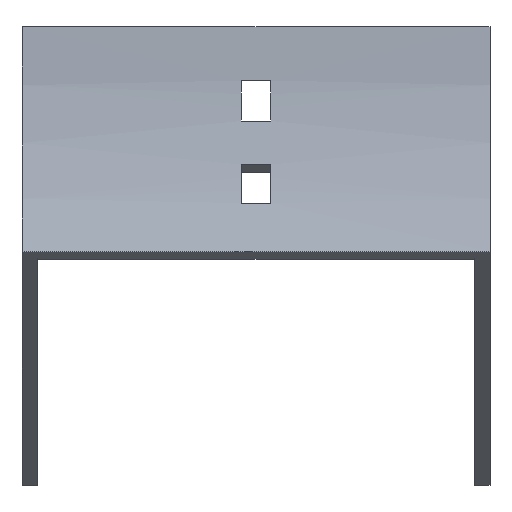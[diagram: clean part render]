
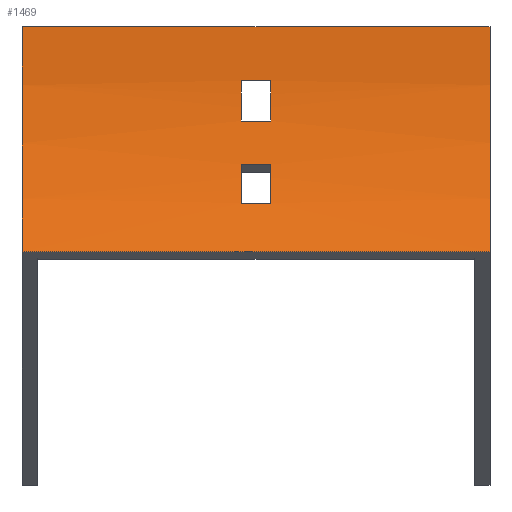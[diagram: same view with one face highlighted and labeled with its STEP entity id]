
A CAD part, front view. The second image highlights one B-rep face of the part: STEP entity #1469.
In plain terms, the highlighted cylindrical face has radius 100 mm (diameter 200 mm), a partial arc.
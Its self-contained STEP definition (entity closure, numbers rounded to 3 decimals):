
#9 = CARTESIAN_POINT ( 'NONE',  ( 52., -0.723, -12. ) ) ;
#27 = VERTEX_POINT ( 'NONE', #1360 ) ;
#112 = DIRECTION ( 'NONE',  ( 0., 0., 1. ) ) ;
#115 = AXIS2_PLACEMENT_3D ( 'NONE', #827, #287, #705 ) ;
#116 = AXIS2_PLACEMENT_3D ( 'NONE', #645, #907, #374 ) ;
#123 = VERTEX_POINT ( 'NONE', #136 ) ;
#136 = CARTESIAN_POINT ( 'NONE',  ( -3.25, -0.723, -12. ) ) ;
#166 = DIRECTION ( 'NONE',  ( -1., 0., 0. ) ) ;
#172 = EDGE_CURVE ( 'NONE', #27, #563, #935, .T. ) ;
#213 = CARTESIAN_POINT ( 'NONE',  ( 52., -100., 0. ) ) ;
#219 = ORIENTED_EDGE ( 'NONE', *, *, #486, .T. ) ;
#221 = CARTESIAN_POINT ( 'NONE',  ( -52., 0., 0. ) ) ;
#229 = CIRCLE ( 'NONE', #301, 100. ) ;
#255 = FACE_BOUND ( 'NONE', #305, .T. ) ;
#279 = VERTEX_POINT ( 'NONE', #1086 ) ;
#286 = CARTESIAN_POINT ( 'NONE',  ( 52., 0., 0. ) ) ;
#287 = DIRECTION ( 'NONE',  ( 1., 0., 0. ) ) ;
#300 = AXIS2_PLACEMENT_3D ( 'NONE', #343, #707, #1106 ) ;
#301 = AXIS2_PLACEMENT_3D ( 'NONE', #1573, #166, #675 ) ;
#305 = EDGE_LOOP ( 'NONE', ( #373, #1543, #219, #424 ) ) ;
#311 = DIRECTION ( 'NONE',  ( -1., 0., 0. ) ) ;
#343 = CARTESIAN_POINT ( 'NONE',  ( -3.25, -100., 0. ) ) ;
#344 = CARTESIAN_POINT ( 'NONE',  ( 52., 0., 0. ) ) ;
#350 = VERTEX_POINT ( 'NONE', #344 ) ;
#351 = CARTESIAN_POINT ( 'NONE',  ( -3.25, -8.023, -39.246 ) ) ;
#356 = CARTESIAN_POINT ( 'NONE',  ( 52., -4.829, -30.699 ) ) ;
#367 = DIRECTION ( 'NONE',  ( -1., 0., 0. ) ) ;
#373 = ORIENTED_EDGE ( 'NONE', *, *, #853, .T. ) ;
#374 = DIRECTION ( 'NONE',  ( 0., 0., 1. ) ) ;
#376 = ORIENTED_EDGE ( 'NONE', *, *, #1189, .T. ) ;
#382 = CARTESIAN_POINT ( 'NONE',  ( 52., -8.023, -39.246 ) ) ;
#383 = CARTESIAN_POINT ( 'NONE',  ( 3.25, -2.23, -21. ) ) ;
#389 = VERTEX_POINT ( 'NONE', #1395 ) ;
#393 = LINE ( 'NONE', #382, #1675 ) ;
#424 = ORIENTED_EDGE ( 'NONE', *, *, #1230, .T. ) ;
#486 = EDGE_CURVE ( 'NONE', #123, #279, #803, .T. ) ;
#501 = AXIS2_PLACEMENT_3D ( 'NONE', #1412, #1285, #112 ) ;
#502 = VECTOR ( 'NONE', #942, 1000. ) ;
#503 = VERTEX_POINT ( 'NONE', #383 ) ;
#530 = DIRECTION ( 'NONE',  ( 1., 0., 0. ) ) ;
#536 = VERTEX_POINT ( 'NONE', #1324 ) ;
#561 = VERTEX_POINT ( 'NONE', #1185 ) ;
#563 = VERTEX_POINT ( 'NONE', #1442 ) ;
#638 = ORIENTED_EDGE ( 'NONE', *, *, #1358, .F. ) ;
#645 = CARTESIAN_POINT ( 'NONE',  ( 52., -100., 0. ) ) ;
#662 = ORIENTED_EDGE ( 'NONE', *, *, #1452, .F. ) ;
#673 = ORIENTED_EDGE ( 'NONE', *, *, #1062, .F. ) ;
#675 = DIRECTION ( 'NONE',  ( 0., 0., -1. ) ) ;
#700 = EDGE_CURVE ( 'NONE', #389, #536, #1321, .T. ) ;
#705 = DIRECTION ( 'NONE',  ( 0., 0., 1. ) ) ;
#707 = DIRECTION ( 'NONE',  ( 1., 0., 0. ) ) ;
#712 = CIRCLE ( 'NONE', #501, 100. ) ;
#742 = CARTESIAN_POINT ( 'NONE',  ( 52., -2.23, -21. ) ) ;
#761 = FACE_OUTER_BOUND ( 'NONE', #1215, .T. ) ;
#773 = VECTOR ( 'NONE', #883, 1000. ) ;
#802 = DIRECTION ( 'NONE',  ( -1., 0., 0. ) ) ;
#803 = LINE ( 'NONE', #9, #1430 ) ;
#804 = DIRECTION ( 'NONE',  ( -1., 0., 0. ) ) ;
#809 = LINE ( 'NONE', #286, #502 ) ;
#827 = CARTESIAN_POINT ( 'NONE',  ( 3.25, -100., 0. ) ) ;
#843 = ORIENTED_EDGE ( 'NONE', *, *, #172, .F. ) ;
#851 = VECTOR ( 'NONE', #804, 1000. ) ;
#853 = EDGE_CURVE ( 'NONE', #503, #1660, #1001, .T. ) ;
#855 = VECTOR ( 'NONE', #367, 1000. ) ;
#883 = DIRECTION ( 'NONE',  ( -1., 0., 0. ) ) ;
#907 = DIRECTION ( 'NONE',  ( -1., 0., 0. ) ) ;
#935 = LINE ( 'NONE', #1459, #851 ) ;
#942 = DIRECTION ( 'NONE',  ( -1., 0., 0. ) ) ;
#955 = ORIENTED_EDGE ( 'NONE', *, *, #1164, .F. ) ;
#958 = EDGE_CURVE ( 'NONE', #1660, #123, #1347, .T. ) ;
#964 = CIRCLE ( 'NONE', #1241, 100. ) ;
#1001 = LINE ( 'NONE', #742, #773 ) ;
#1010 = VERTEX_POINT ( 'NONE', #351 ) ;
#1028 = LINE ( 'NONE', #356, #855 ) ;
#1046 = DIRECTION ( 'NONE',  ( 1., 0., 0. ) ) ;
#1053 = EDGE_CURVE ( 'NONE', #1364, #563, #712, .T. ) ;
#1062 = EDGE_CURVE ( 'NONE', #1010, #389, #393, .T. ) ;
#1079 = CARTESIAN_POINT ( 'NONE',  ( -3.25, -2.23, -21. ) ) ;
#1086 = CARTESIAN_POINT ( 'NONE',  ( 3.25, -0.723, -12. ) ) ;
#1106 = DIRECTION ( 'NONE',  ( 0., 0., 1. ) ) ;
#1141 = ORIENTED_EDGE ( 'NONE', *, *, #700, .F. ) ;
#1164 = EDGE_CURVE ( 'NONE', #561, #1010, #964, .T. ) ;
#1185 = CARTESIAN_POINT ( 'NONE',  ( -3.25, -4.829, -30.699 ) ) ;
#1189 = EDGE_CURVE ( 'NONE', #350, #1364, #809, .T. ) ;
#1215 = EDGE_LOOP ( 'NONE', ( #1306, #843, #638, #376 ) ) ;
#1230 = EDGE_CURVE ( 'NONE', #279, #503, #229, .T. ) ;
#1241 = AXIS2_PLACEMENT_3D ( 'NONE', #1338, #802, #1579 ) ;
#1251 = EDGE_LOOP ( 'NONE', ( #955, #662, #1141, #673 ) ) ;
#1285 = DIRECTION ( 'NONE',  ( -1., 0., 0. ) ) ;
#1291 = CYLINDRICAL_SURFACE ( 'NONE', #116, 100. ) ;
#1306 = ORIENTED_EDGE ( 'NONE', *, *, #1053, .T. ) ;
#1307 = FACE_BOUND ( 'NONE', #1251, .T. ) ;
#1321 = CIRCLE ( 'NONE', #115, 100. ) ;
#1324 = CARTESIAN_POINT ( 'NONE',  ( 3.25, -4.829, -30.699 ) ) ;
#1338 = CARTESIAN_POINT ( 'NONE',  ( -3.25, -100., 0. ) ) ;
#1347 = CIRCLE ( 'NONE', #300, 100. ) ;
#1358 = EDGE_CURVE ( 'NONE', #350, #27, #1483, .T. ) ;
#1360 = CARTESIAN_POINT ( 'NONE',  ( 52., -13.397, -50. ) ) ;
#1364 = VERTEX_POINT ( 'NONE', #221 ) ;
#1395 = CARTESIAN_POINT ( 'NONE',  ( 3.25, -8.023, -39.246 ) ) ;
#1398 = DIRECTION ( 'NONE',  ( 0., 0., 1. ) ) ;
#1412 = CARTESIAN_POINT ( 'NONE',  ( -52., -100., 0. ) ) ;
#1430 = VECTOR ( 'NONE', #530, 1000. ) ;
#1442 = CARTESIAN_POINT ( 'NONE',  ( -52., -13.397, -50. ) ) ;
#1452 = EDGE_CURVE ( 'NONE', #536, #561, #1028, .T. ) ;
#1459 = CARTESIAN_POINT ( 'NONE',  ( 52., -13.397, -50. ) ) ;
#1469 = ADVANCED_FACE ( 'NONE', ( #761, #255, #1307 ), #1291, .F. ) ;
#1483 = CIRCLE ( 'NONE', #1538, 100. ) ;
#1538 = AXIS2_PLACEMENT_3D ( 'NONE', #213, #311, #1398 ) ;
#1543 = ORIENTED_EDGE ( 'NONE', *, *, #958, .T. ) ;
#1573 = CARTESIAN_POINT ( 'NONE',  ( 3.25, -100., 0. ) ) ;
#1579 = DIRECTION ( 'NONE',  ( 0., 0., -1. ) ) ;
#1660 = VERTEX_POINT ( 'NONE', #1079 ) ;
#1675 = VECTOR ( 'NONE', #1046, 1000. ) ;
